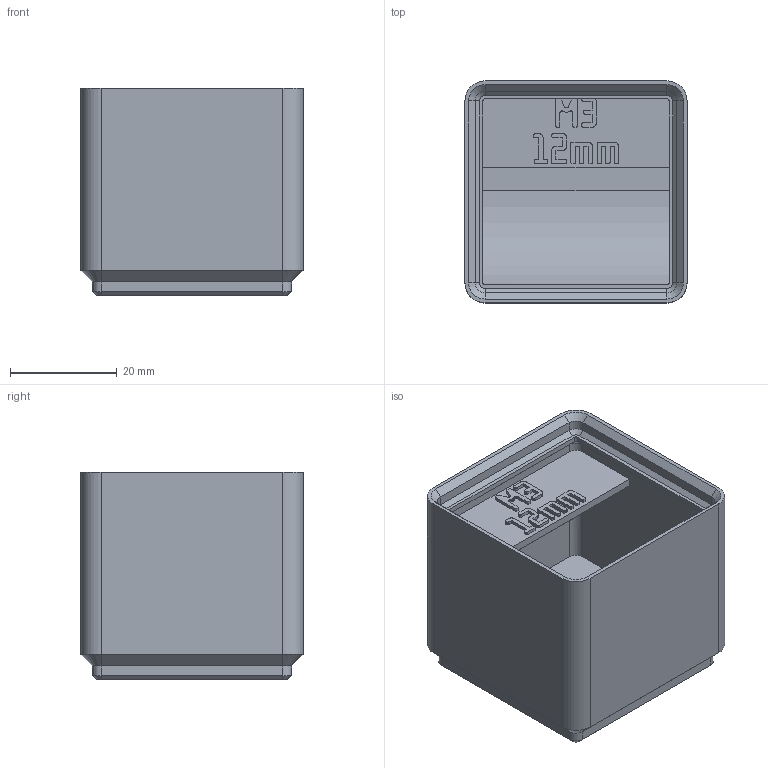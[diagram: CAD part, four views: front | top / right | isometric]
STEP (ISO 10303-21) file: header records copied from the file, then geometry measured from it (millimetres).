
FILE_DESCRIPTION(('Open CASCADE Model'),'2;1');
FILE_NAME('Open CASCADE Shape Model','2026-11-03T10:23:43',('Author'),( 'Open CASCADE'),'Open CASCADE STEP processor 8.0','build123d', 'Unknown');
FILE_SCHEMA(('AUTOMOTIVE_DESIGN { 1 0 10303 214 1 1 1 1 }'));
Length unit declared in the file: millimetre
Products named in the file (1): COMPOUND
Bounding box: 41.5 x 41.5 x 38.8 mm (x, y, z)
Volume: 28175.8 mm3; surface area: 14243.7 mm2
Topology: 1 solids, 1 shells, 692 faces, 1990 edges, 1308 vertices
Faces by surface type: plane 649, cylinder 23, cone 20
Entity records: 46838 total; most frequent: CARTESIAN_POINT 9603, DIRECTION 6000, LINE 4486, VECTOR 4486, ORIENTED_EDGE 3980, PCURVE 3980, DEFINITIONAL_REPRESENTATION 3980, EDGE_CURVE 1990
